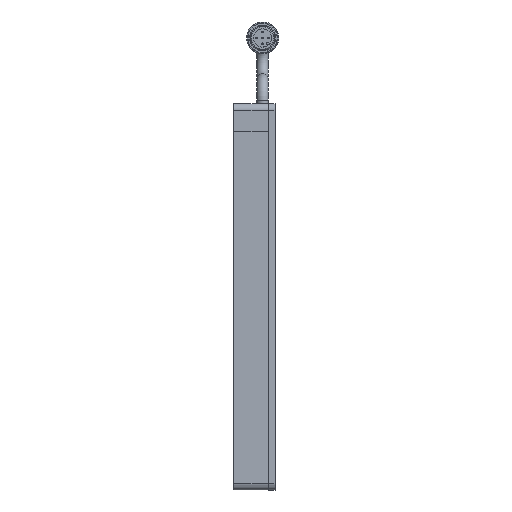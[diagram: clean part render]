
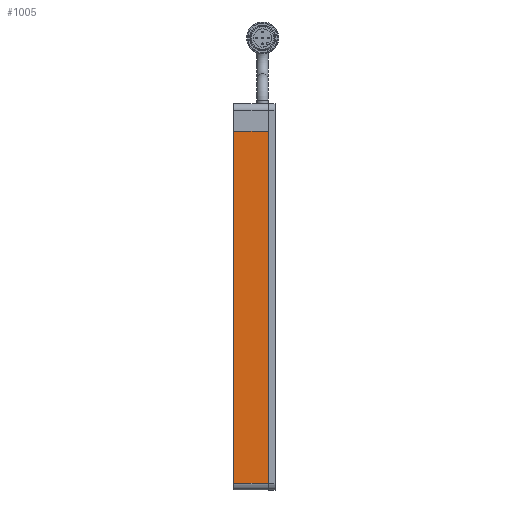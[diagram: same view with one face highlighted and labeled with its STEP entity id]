
A CAD part, left-side view. The second image highlights one B-rep face of the part: STEP entity #1005.
In plain terms, the highlighted planar face has unit normal (-1, 0, 0) as drawn and (0, 0, -1) by its records, which use the part's own axes.
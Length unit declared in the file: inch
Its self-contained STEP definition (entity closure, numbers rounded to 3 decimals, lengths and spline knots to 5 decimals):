
#376 = ORIENTED_EDGE ( 'NONE', *, *, #2743, .T. ) ;
#1005 = ADVANCED_FACE ( 'NONE', ( #11431 ), #2561, .F. ) ;
#1442 = CARTESIAN_POINT ( 'NONE',  ( -3., -0.3125, -0.25 ) ) ;
#1721 = VECTOR ( 'NONE', #7206, 39.37008 ) ;
#1735 = AXIS2_PLACEMENT_3D ( 'NONE', #13814, #5931, #7132 ) ;
#2106 = LINE ( 'NONE', #3371, #2956 ) ;
#2168 = DIRECTION ( 'NONE',  ( -1., 0., 0. ) ) ;
#2409 = VERTEX_POINT ( 'NONE', #4099 ) ;
#2561 = PLANE ( 'NONE',  #1735 ) ;
#2743 = EDGE_CURVE ( 'NONE', #11578, #13496, #2106, .T. ) ;
#2956 = VECTOR ( 'NONE', #4494, 39.37008 ) ;
#3371 = CARTESIAN_POINT ( 'NONE',  ( 3.375, 0.3125, -0.25 ) ) ;
#3705 = EDGE_LOOP ( 'NONE', ( #10815, #376, #5189, #3958 ) ) ;
#3958 = ORIENTED_EDGE ( 'NONE', *, *, #4040, .T. ) ;
#4040 = EDGE_CURVE ( 'NONE', #2409, #11303, #10528, .T. ) ;
#4099 = CARTESIAN_POINT ( 'NONE',  ( -3., -0.3125, -0.25 ) ) ;
#4307 = CARTESIAN_POINT ( 'NONE',  ( 3.375, 0.3125, -0.25 ) ) ;
#4494 = DIRECTION ( 'NONE',  ( 0., -1., 0. ) ) ;
#4552 = CARTESIAN_POINT ( 'NONE',  ( -3.5, 0.3125, -0.25 ) ) ;
#5189 = ORIENTED_EDGE ( 'NONE', *, *, #5862, .T. ) ;
#5561 = CARTESIAN_POINT ( 'NONE',  ( -3.5, -0.3125, -0.25 ) ) ;
#5862 = EDGE_CURVE ( 'NONE', #13496, #2409, #6668, .T. ) ;
#5931 = DIRECTION ( 'NONE',  ( 0., 0., 1. ) ) ;
#6668 = LINE ( 'NONE', #5561, #12016 ) ;
#7132 = DIRECTION ( 'NONE',  ( 1., 0., 0. ) ) ;
#7206 = DIRECTION ( 'NONE',  ( 0., 1., 0. ) ) ;
#8756 = DIRECTION ( 'NONE',  ( -1., 0., 0. ) ) ;
#8807 = LINE ( 'NONE', #4552, #10201 ) ;
#9426 = EDGE_CURVE ( 'NONE', #11578, #11303, #8807, .T. ) ;
#10201 = VECTOR ( 'NONE', #2168, 39.37008 ) ;
#10528 = LINE ( 'NONE', #1442, #1721 ) ;
#10815 = ORIENTED_EDGE ( 'NONE', *, *, #9426, .F. ) ;
#11303 = VERTEX_POINT ( 'NONE', #13023 ) ;
#11431 = FACE_OUTER_BOUND ( 'NONE', #3705, .T. ) ;
#11578 = VERTEX_POINT ( 'NONE', #4307 ) ;
#12016 = VECTOR ( 'NONE', #8756, 39.37008 ) ;
#13023 = CARTESIAN_POINT ( 'NONE',  ( -3., 0.3125, -0.25 ) ) ;
#13496 = VERTEX_POINT ( 'NONE', #13583 ) ;
#13583 = CARTESIAN_POINT ( 'NONE',  ( 3.375, -0.3125, -0.25 ) ) ;
#13814 = CARTESIAN_POINT ( 'NONE',  ( -3.5, 0.3125, -0.25 ) ) ;
